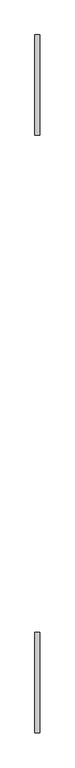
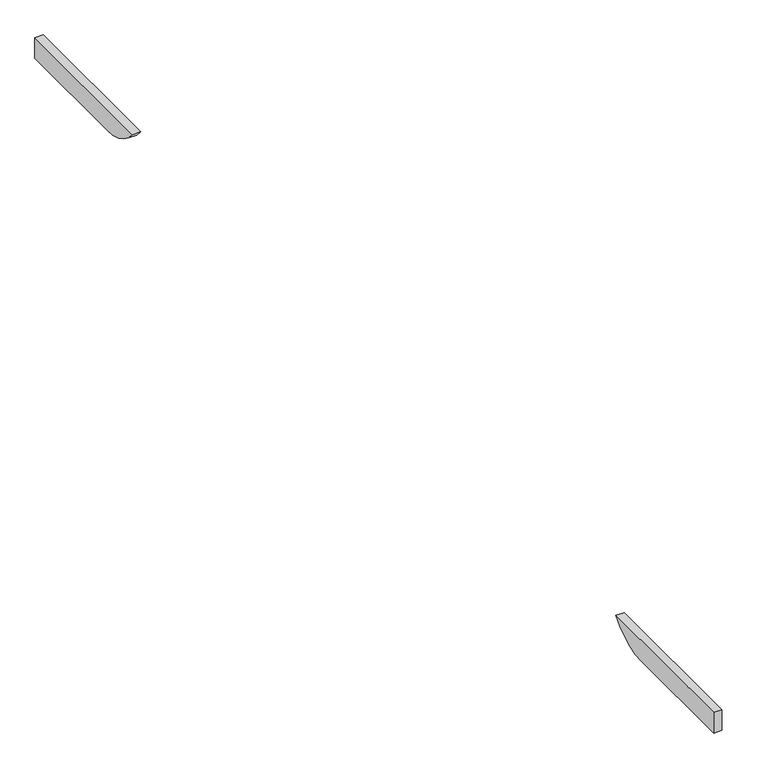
"""IFC4 building model written with IfcOpenShell, lengths in millimetres: proxy geometry, Modelos genéricos 84 : Modelos genéricos 2."""

from ifc_helpers import new_model, si_unit, point, frame, frame_2d, origin, place, context, project, spatial, polyline, circle_curve, trimmed, segment, composite_curve, outline, extrude, source, transform, mapped, element, save


def generic_models_07221920(model_context):
    return source(origin(), model_context, "Body", "SweptSolid", [
        extrude(outline(composite_curve([segment(polyline([(-2331.3761835, 2840.0), (-2331.3761835, 3000.0), (-1101.3761835, 3000.0)]), True, "CONTINUOUS"), segment(trimmed(circle_curve(frame_2d((-1421.3761835, 3240.0)), 400.0), [point((-1101.3761835, 3000.0))], [point((-1421.3761835, 2840.0))], False, "CARTESIAN"), True, "CONTINUOUS"), segment(polyline([(-1421.3761835, 2840.0), (-2331.3761835, 2840.0)]), True, "CONTINUOUS")], self_intersect=False)), frame((58923.4472467, 0.0, 0.0), z_axis=(1.0, 0.0, 0.0), x_axis=(0.0, 1.0, 0.0)), (0.0, 0.0, 1.0), 60.0),
        extrude(outline(composite_curve([segment(polyline([(6228.6238165, 2840.0), (5318.6238165, 2840.0)]), True, "CONTINUOUS"), segment(trimmed(circle_curve(frame_2d((5318.6238165, 3240.0)), 400.0), [point((5318.6238165, 2840.0))], [point((4998.6238165, 3000.0))], False, "CARTESIAN"), True, "CONTINUOUS"), segment(polyline([(4998.6238165, 3000.0), (6228.6238165, 3000.0), (6228.6238165, 2840.0)]), True, "CONTINUOUS")], self_intersect=False)), frame((58923.4472467, 0.0, 0.0), z_axis=(1.0, 0.0, 0.0), x_axis=(0.0, 1.0, 0.0)), (0.0, 0.0, 1.0), 60.0),
    ])


if __name__ == "__main__":
    model = new_model("IFC4")
    model_context = context("Model", 3, world=origin())
    ifc_project = project(units=[si_unit("LENGTHUNIT", "METRE", prefix="MILLI")], contexts=[model_context])
    site = spatial("IfcSite", under=ifc_project)
    building = spatial("IfcBuilding", under=site)
    placement = place(None, origin())
    generic_models_shape = generic_models_07221920(model_context)
    element("IfcBuildingElementProxy", 1, Name="Modelos genéricos 84 : Modelos genéricos 2", ObjectType="Modelos genéricos 84 : Modelos genéricos 2", at=placement, inside=building, context=model_context, shape_type="MappedRepresentation", body=[
        mapped(generic_models_shape, transform((0.0, 0.0, 0.0), x_axis=(1.0, 0.0, 0.0), y_axis=(0.0, 1.0, 0.0), z_axis=(0.0, 0.0, 1.0))),
    ])
    save(model, "model.ifc")
